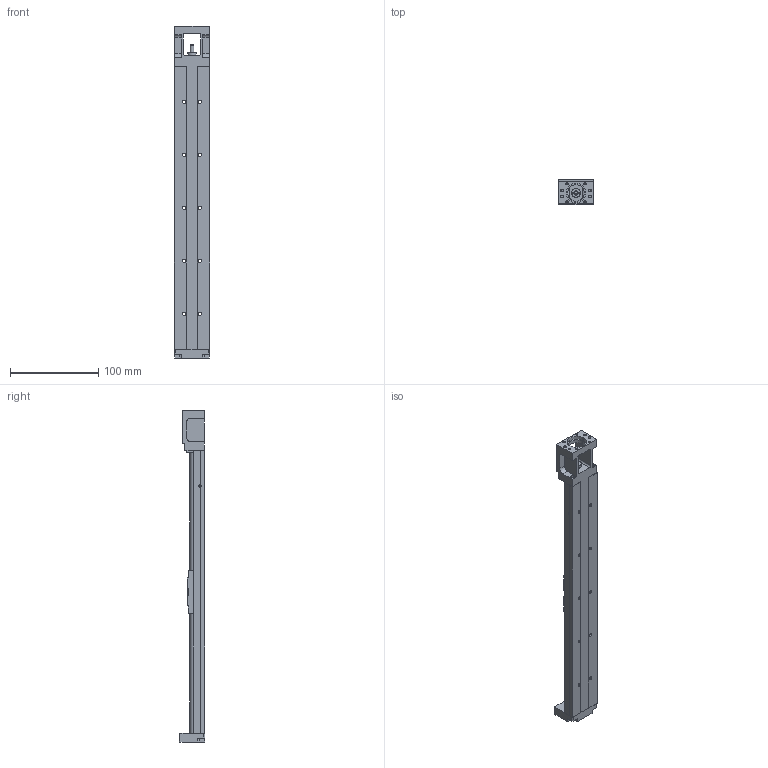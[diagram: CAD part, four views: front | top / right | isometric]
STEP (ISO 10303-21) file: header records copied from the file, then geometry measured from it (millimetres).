
FILE_DESCRIPTION (( 'STEP AP203' ), '1' );
FILE_NAME ('GSX40-250-LL08025-P7.STEP', '2013-11-02T01:36:42', ( '微软用户' ), ( '微软中国' ), 'SwSTEP 2.0', 'SolidWorks 2010', '' );
FILE_SCHEMA (( 'CONFIG_CONTROL_DESIGN' ));
Length unit declared in the file: millimetre
Products named in the file (1): GSX40-250-LL08025-P7
Bounding box: 40 x 29.3 x 376 mm (x, y, z)
Volume: 150663.1 mm3; surface area: 65077.6 mm2
Topology: 1 solids, 1 shells, 327 faces, 865 edges, 544 vertices
Faces by surface type: cylinder 153, plane 123, cone 51
Entity records: 10373 total; most frequent: CARTESIAN_POINT 2028, DIRECTION 1774, ORIENTED_EDGE 1670, EDGE_CURVE 835, AXIS2_PLACEMENT_3D 656, VERTEX_POINT 544, VECTOR 462, LINE 462
